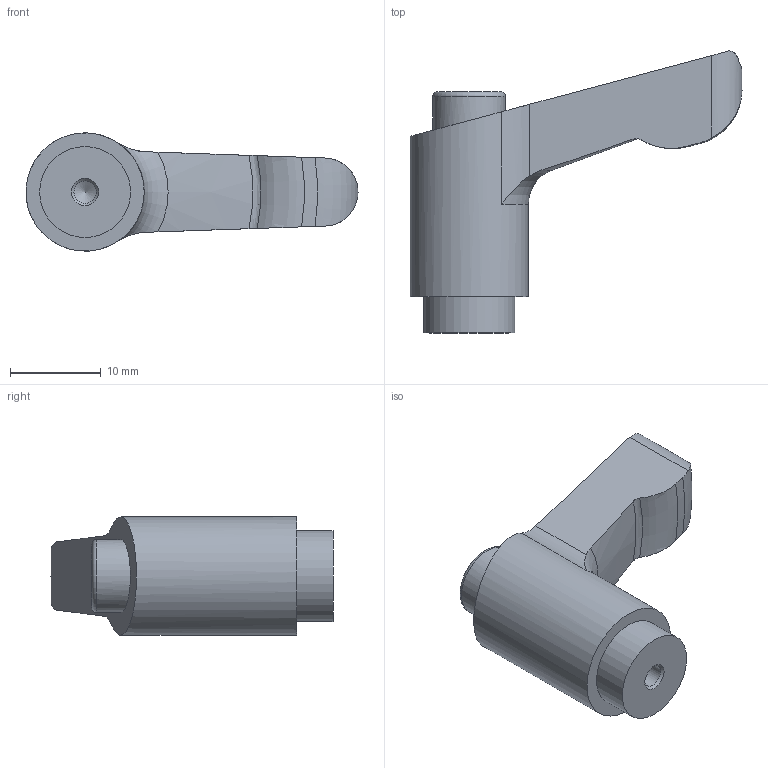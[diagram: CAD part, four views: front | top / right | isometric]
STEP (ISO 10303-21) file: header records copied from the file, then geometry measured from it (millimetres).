
FILE_DESCRIPTION( ( 'STEP AP203' ), '1' );
FILE_NAME( 'C:/Temp/Ganter_Step_05_03_2020/data/2_1/gn303_1/gn303_1_b/Adjustable hand lever GN 303.1-30-M3-SW-O.stp', '2020-03-05T11:21:51', ( 'License CC BY-ND 4.0' ), ( 'CADENAS' ), ' ', 'PARTsolutions', ' ' );
FILE_SCHEMA( ( 'CONFIG_CONTROL_DESIGN' ) );
Length unit declared in the file: millimetre
Products named in the file (1): _Adjustable hand lever GN 303.1-30-M3-SW-O
Bounding box: 36.5 x 31 x 12.99 mm (x, y, z)
Volume: 4504.3 mm3; surface area: 2086.6 mm2
Topology: 1 solids, 1 shells, 24 faces, 59 edges, 39 vertices
Faces by surface type: cylinder 7, plane 6, torus 6, cone 5
Full cylindrical faces by diameter (mm): 2.459 x1, 8 x1, 10 x1, 13 x1
Entity records: 826 total; most frequent: CARTESIAN_POINT 275, DIRECTION 100, ORIENTED_EDGE 98, EDGE_CURVE 49, AXIS2_PLACEMENT_3D 46, VERTEX_POINT 37, EDGE_LOOP 33, FACE_OUTER_BOUND 29
